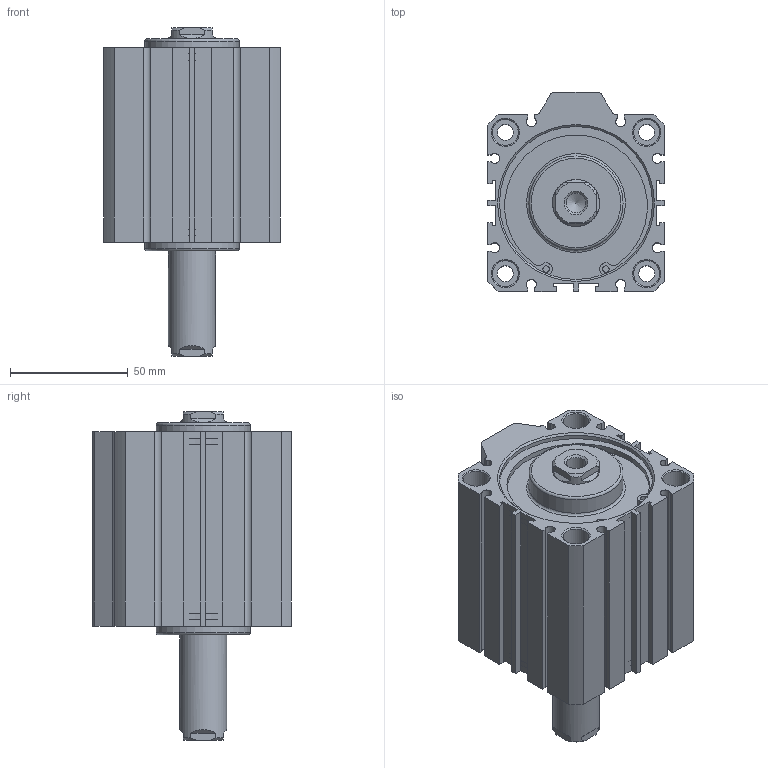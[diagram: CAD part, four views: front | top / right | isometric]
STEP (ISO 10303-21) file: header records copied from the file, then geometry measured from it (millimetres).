
FILE_DESCRIPTION((''),'2;1');
FILE_NAME('I:\3D電子目錄\氣缸\JDD\JDD-S\JDD63-S\JDD63x40-S.stp','2007-02-09T08:54:48',('662F206'),(''),'Autodesk Inventor 10','Autodesk Inventor 10','');
FILE_SCHEMA(('AUTOMOTIVE_DESIGN { 1 0 10303 214 1 1 1 1 }'));
Length unit declared in the file: millimetre
Products named in the file (3): JDD63-S; R 形環 65
Assembly tree (3 placements, depth 2):
  JDD63-S
    JDD63-S
    R 形環 65  x2
Bounding box: 75 x 84.5 x 139.5 mm (x, y, z)
Volume: 442176 mm3; surface area: 69701.8 mm2
Topology: 3 solids, 3 shells, 204 faces, 514 edges, 338 vertices
Faces by surface type: plane 116, cylinder 56, cone 24, bspline 6, torus 2
Full cylindrical faces by diameter (mm): 2.7 x4, 3 x2, 6.8 x4, 11 x8, 20 x2, 40 x2, 65 x4, 68 x2
Entity records: 5651 total; most frequent: CARTESIAN_POINT 1118, DIRECTION 936, ORIENTED_EDGE 848, EDGE_CURVE 424, AXIS2_PLACEMENT_3D 336, VERTEX_POINT 308, EDGE_LOOP 276, VECTOR 264
